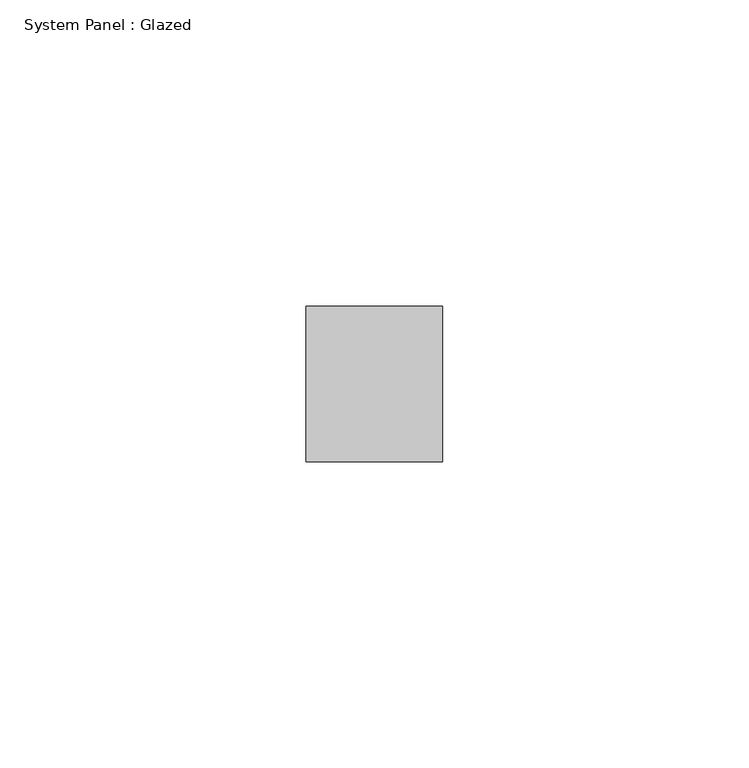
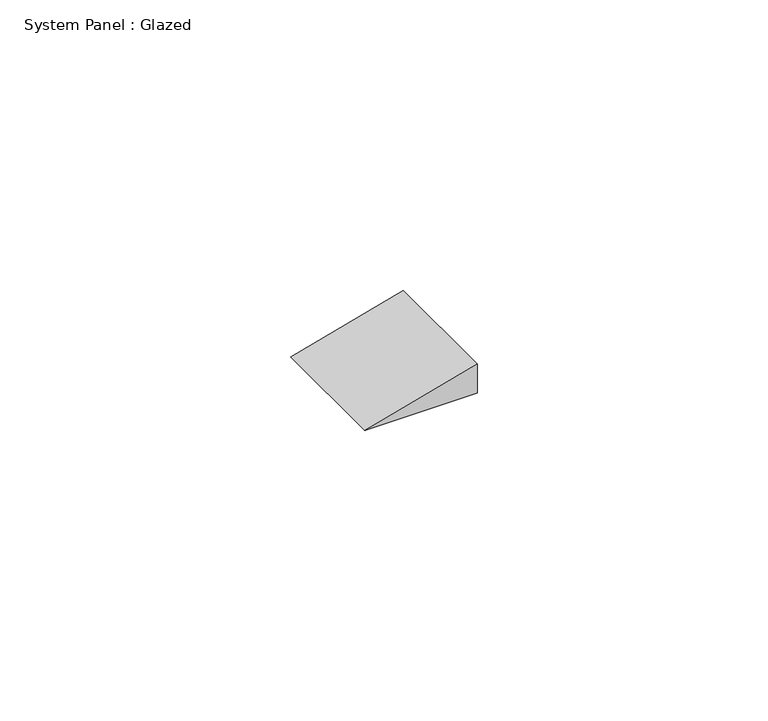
"""IFC4 building model written with IfcOpenShell, lengths in millimetres: plate geometry, System Panel : Glazed."""

from ifc_helpers import new_model, si_unit, frame, origin, place, context, project, spatial, polyline, outline, extrude, source, transform, mapped, element, save


def system_panel_glazed_080434d1(model_context):
    return source(origin(), model_context, "Body", "SweptSolid", [
        extrude(outline(polyline([(0.0, -11.1542523), (0.0, 11.1542523), (6.1086085, 11.1542523), (0.0, -11.1542523)])), frame((0.0, 19.05, 0.0), z_axis=(0.0, 1.0, 0.0), x_axis=(0.0, 0.0, 1.0)), (0.0, 0.0, 1.0), 25.4),
    ])


if __name__ == "__main__":
    model = new_model("IFC4")
    model_context = context("Model", 3, world=origin())
    ifc_project = project(units=[si_unit("LENGTHUNIT", "METRE", prefix="MILLI")], contexts=[model_context])
    site = spatial("IfcSite", under=ifc_project)
    building = spatial("IfcBuilding", under=site)
    placement = place(None, origin())
    system_panel_glazed_shape = system_panel_glazed_080434d1(model_context)
    element("IfcPlate", 1, ObjectType="System Panel : Glazed", at=placement, inside=building, context=model_context, shape_type="MappedRepresentation", body=[
        mapped(system_panel_glazed_shape, transform((0.0, 0.0, 0.0), x_axis=(1.0, 0.0, 0.0), y_axis=(0.0, 1.0, 0.0), z_axis=(0.0, 0.0, 1.0))),
    ])
    save(model, "model.ifc")
